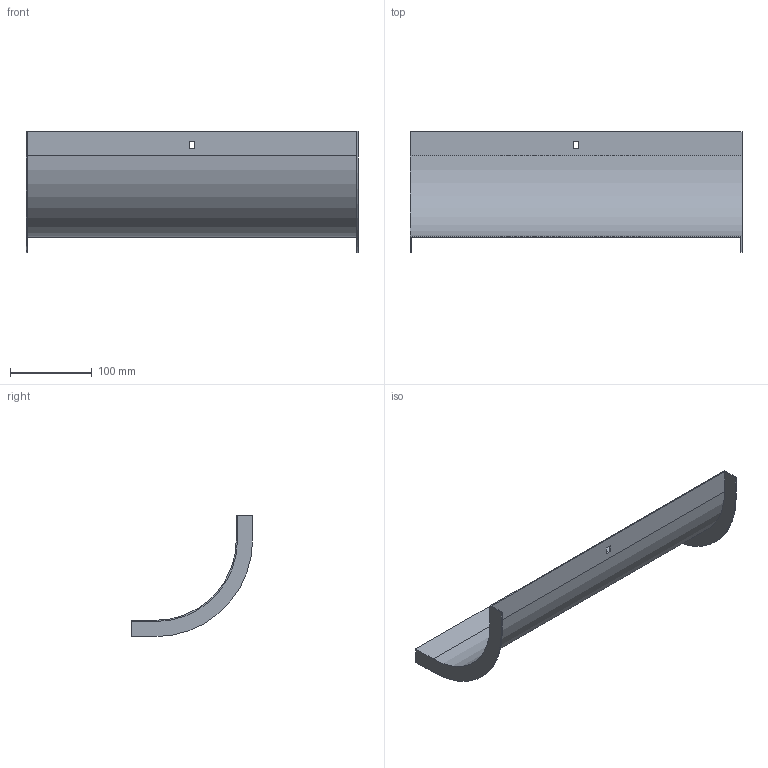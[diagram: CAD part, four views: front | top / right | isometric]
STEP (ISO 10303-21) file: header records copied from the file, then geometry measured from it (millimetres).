
FILE_DESCRIPTION (( 'STEP AP214' ), '1' );
FILE_NAME ('30G1P500.step', '2025-02-21T12:48:38', ( '' ), ( '' ), 'SwSTEP 2.0', 'SolidWorks 2023', '' );
FILE_SCHEMA (( 'AUTOMOTIVE_DESIGN' ));
Length unit declared in the file: millimetre
Products named in the file (1): 30G1P500
Bounding box: 407 x 148.5 x 148.5 mm (x, y, z)
Volume: 144486.7 mm3; surface area: 194808.8 mm2
Topology: 1 solids, 1 shells, 26 faces, 72 edges, 48 vertices
Faces by surface type: plane 22, cylinder 4
Entity records: 855 total; most frequent: CARTESIAN_POINT 147, ORIENTED_EDGE 144, DIRECTION 134, EDGE_CURVE 72, VECTOR 64, LINE 64, VERTEX_POINT 48, AXIS2_PLACEMENT_3D 35
